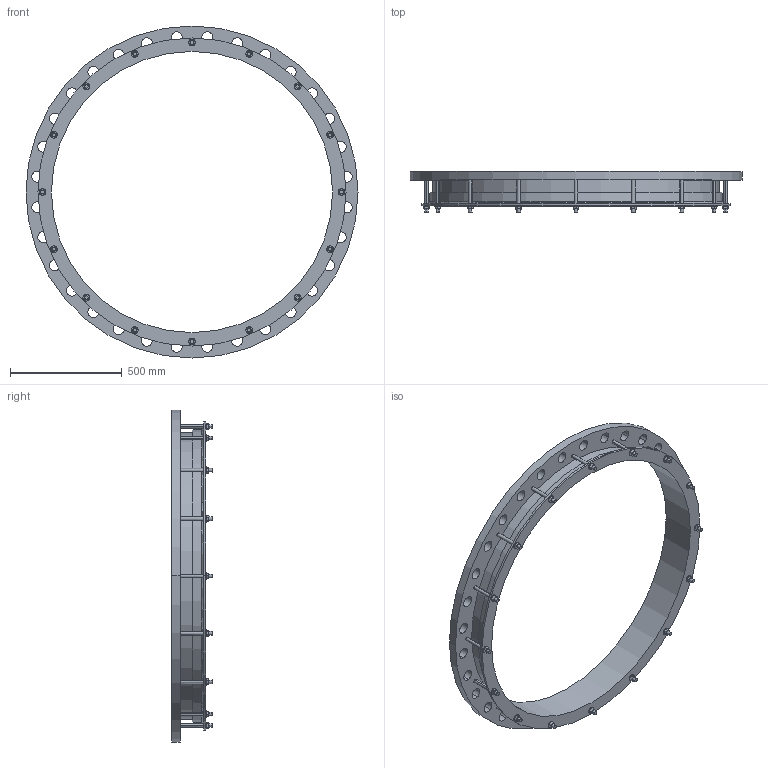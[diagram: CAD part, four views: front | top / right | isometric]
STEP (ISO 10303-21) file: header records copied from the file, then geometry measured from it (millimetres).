
FILE_DESCRIPTION((''),'2;1');
FILE_NAME('1255X1200PN16','2019-01-17T',('mfairey'),('Glynwed Pipe Systems'),'CREO PARAMETRIC BY PTC INC, 2016130','CREO PARAMETRIC BY PTC INC, 2016130','');
FILE_SCHEMA(('CONFIG_CONTROL_DESIGN'));
Length unit declared in the file: millimetre
Products named in the file (1): 1255X1200PN16
Bounding box: 1485 x 182 x 1485 mm (x, y, z)
Volume: 27113835.4 mm3; surface area: 2785439.8 mm2
Topology: 1 solids, 1 shells, 322 faces, 854 edges, 568 vertices
Faces by surface type: cylinder 168, plane 148, cone 4, torus 2
Entity records: 11414 total; most frequent: CARTESIAN_POINT 2968, DIRECTION 1756, ORIENTED_EDGE 1708, EDGE_CURVE 854, AXIS2_PLACEMENT_3D 648, VERTEX_POINT 568, VECTOR 460, LINE 460
